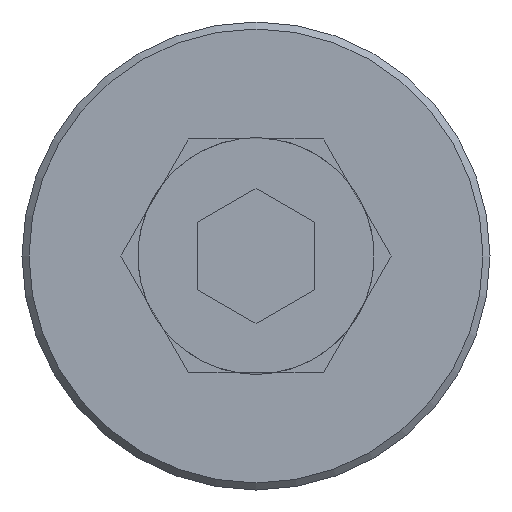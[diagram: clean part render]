
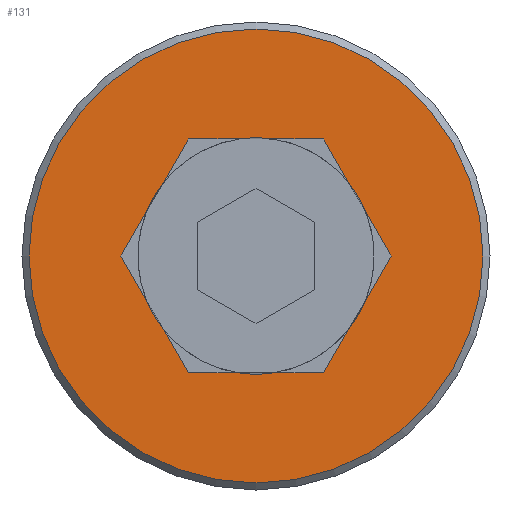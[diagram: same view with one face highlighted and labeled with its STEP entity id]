
A CAD part, left-side view. The second image highlights one B-rep face of the part: STEP entity #131.
In plain terms, the highlighted planar face has unit normal (-1, 0, 0).
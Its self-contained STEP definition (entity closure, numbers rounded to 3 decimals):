
#131 = ADVANCED_FACE( '', ( #276, #277 ), #278, .F. );
#276 = FACE_OUTER_BOUND( '', #423, .T. );
#277 = FACE_BOUND( '', #424, .T. );
#278 = PLANE( '', #425 );
#423 = EDGE_LOOP( '', ( #717 ) );
#424 = EDGE_LOOP( '', ( #718, #719, #720, #721, #722, #723, #724, #725, #726, #727, #728, #729, #730, #731, #732, #733, #734, #735 ) );
#425 = AXIS2_PLACEMENT_3D( '', #736, #737, #738 );
#717 = ORIENTED_EDGE( '', *, *, #908, .F. );
#718 = ORIENTED_EDGE( '', *, *, #891, .T. );
#719 = ORIENTED_EDGE( '', *, *, #885, .T. );
#720 = ORIENTED_EDGE( '', *, *, #871, .T. );
#721 = ORIENTED_EDGE( '', *, *, #898, .T. );
#722 = ORIENTED_EDGE( '', *, *, #906, .T. );
#723 = ORIENTED_EDGE( '', *, *, #831, .T. );
#724 = ORIENTED_EDGE( '', *, *, #896, .T. );
#725 = ORIENTED_EDGE( '', *, *, #865, .T. );
#726 = ORIENTED_EDGE( '', *, *, #804, .T. );
#727 = ORIENTED_EDGE( '', *, *, #894, .T. );
#728 = ORIENTED_EDGE( '', *, *, #807, .T. );
#729 = ORIENTED_EDGE( '', *, *, #875, .T. );
#730 = ORIENTED_EDGE( '', *, *, #893, .T. );
#731 = ORIENTED_EDGE( '', *, *, #790, .T. );
#732 = ORIENTED_EDGE( '', *, *, #856, .T. );
#733 = ORIENTED_EDGE( '', *, *, #892, .T. );
#734 = ORIENTED_EDGE( '', *, *, #842, .T. );
#735 = ORIENTED_EDGE( '', *, *, #820, .T. );
#736 = CARTESIAN_POINT( '', ( 0., 0., 0. ) );
#737 = DIRECTION( '', ( 1., 0., 0. ) );
#738 = DIRECTION( '', ( 0., 0., -1. ) );
#790 = EDGE_CURVE( '', #919, #920, #921, .T. );
#804 = EDGE_CURVE( '', #946, #944, #947, .T. );
#807 = EDGE_CURVE( '', #950, #951, #952, .T. );
#820 = EDGE_CURVE( '', #974, #972, #975, .T. );
#831 = EDGE_CURVE( '', #992, #990, #993, .T. );
#842 = EDGE_CURVE( '', #1008, #974, #1009, .T. );
#856 = EDGE_CURVE( '', #920, #1027, #1029, .T. );
#865 = EDGE_CURVE( '', #1040, #946, #1041, .T. );
#871 = EDGE_CURVE( '', #1051, #1049, #1052, .T. );
#875 = EDGE_CURVE( '', #951, #1055, #1057, .T. );
#885 = EDGE_CURVE( '', #1068, #1051, #1069, .T. );
#891 = EDGE_CURVE( '', #972, #1068, #1075, .T. );
#892 = EDGE_CURVE( '', #1027, #1008, #1076, .T. );
#893 = EDGE_CURVE( '', #1055, #919, #1077, .T. );
#894 = EDGE_CURVE( '', #944, #950, #1078, .T. );
#896 = EDGE_CURVE( '', #990, #1040, #1080, .T. );
#898 = EDGE_CURVE( '', #1049, #1081, #1083, .T. );
#906 = EDGE_CURVE( '', #1081, #992, #1093, .T. );
#908 = EDGE_CURVE( '', #1095, #1095, #1096, .T. );
#919 = VERTEX_POINT( '', #1108 );
#920 = VERTEX_POINT( '', #1109 );
#921 = LINE( '', #1110, #1111 );
#944 = VERTEX_POINT( '', #1144 );
#946 = VERTEX_POINT( '', #1147 );
#947 = LINE( '', #1148, #1149 );
#950 = VERTEX_POINT( '', #1153 );
#951 = VERTEX_POINT( '', #1154 );
#952 = LINE( '', #1155, #1156 );
#972 = VERTEX_POINT( '', #1180 );
#974 = VERTEX_POINT( '', #1183 );
#975 = LINE( '', #1184, #1185 );
#990 = VERTEX_POINT( '', #1203 );
#992 = VERTEX_POINT( '', #1206 );
#993 = LINE( '', #1207, #1208 );
#1008 = VERTEX_POINT( '', #1227 );
#1009 = LINE( '', #1228, #1229 );
#1027 = VERTEX_POINT( '', #1253 );
#1029 = LINE( '', #1256, #1257 );
#1040 = VERTEX_POINT( '', #1270 );
#1041 = LINE( '', #1271, #1272 );
#1049 = VERTEX_POINT( '', #1283 );
#1051 = VERTEX_POINT( '', #1286 );
#1052 = LINE( '', #1287, #1288 );
#1055 = VERTEX_POINT( '', #1292 );
#1057 = LINE( '', #1295, #1296 );
#1068 = VERTEX_POINT( '', #1309 );
#1069 = LINE( '', #1310, #1311 );
#1075 = CIRCLE( '', #1319, 5.05 );
#1076 = CIRCLE( '', #1320, 5.05 );
#1077 = CIRCLE( '', #1321, 5.05 );
#1078 = CIRCLE( '', #1322, 5.05 );
#1080 = CIRCLE( '', #1324, 5.05 );
#1081 = VERTEX_POINT( '', #1325 );
#1083 = CIRCLE( '', #1328, 5.05 );
#1093 = LINE( '', #1340, #1341 );
#1095 = VERTEX_POINT( '', #1343 );
#1096 = CIRCLE( '', #1344, 9.7 );
#1108 = CARTESIAN_POINT( '', ( 0., -0.709, 5. ) );
#1109 = CARTESIAN_POINT( '', ( 0., -2.887, 5. ) );
#1110 = CARTESIAN_POINT( '', ( 0., 2.887, 5. ) );
#1111 = VECTOR( '', #1356, 1000. );
#1144 = CARTESIAN_POINT( '', ( 0., 4.685, 1.886 ) );
#1147 = CARTESIAN_POINT( '', ( 0., 5.774, 0. ) );
#1148 = CARTESIAN_POINT( '', ( 0., 5.774, 0. ) );
#1149 = VECTOR( '', #1368, 1000. );
#1153 = CARTESIAN_POINT( '', ( 0., 3.976, 3.114 ) );
#1154 = CARTESIAN_POINT( '', ( 0., 2.887, 5. ) );
#1155 = CARTESIAN_POINT( '', ( 0., 5.774, 0. ) );
#1156 = VECTOR( '', #1370, 1000. );
#1180 = CARTESIAN_POINT( '', ( 0., -4.685, -1.886 ) );
#1183 = CARTESIAN_POINT( '', ( 0., -5.774, 0. ) );
#1184 = CARTESIAN_POINT( '', ( 0., -5.774, 0. ) );
#1185 = VECTOR( '', #1388, 1000. );
#1203 = CARTESIAN_POINT( '', ( 0., 3.976, -3.114 ) );
#1206 = CARTESIAN_POINT( '', ( 0., 2.887, -5. ) );
#1207 = CARTESIAN_POINT( '', ( 0., 2.887, -5. ) );
#1208 = VECTOR( '', #1402, 1000. );
#1227 = CARTESIAN_POINT( '', ( 0., -4.685, 1.886 ) );
#1228 = CARTESIAN_POINT( '', ( 0., -2.887, 5. ) );
#1229 = VECTOR( '', #1413, 1000. );
#1253 = CARTESIAN_POINT( '', ( 0., -3.976, 3.114 ) );
#1256 = CARTESIAN_POINT( '', ( 0., -2.887, 5. ) );
#1257 = VECTOR( '', #1427, 1000. );
#1270 = CARTESIAN_POINT( '', ( 0., 4.685, -1.886 ) );
#1271 = CARTESIAN_POINT( '', ( 0., 2.887, -5. ) );
#1272 = VECTOR( '', #1436, 1000. );
#1283 = CARTESIAN_POINT( '', ( 0., -0.709, -5. ) );
#1286 = CARTESIAN_POINT( '', ( 0., -2.887, -5. ) );
#1287 = CARTESIAN_POINT( '', ( 0., -2.887, -5. ) );
#1288 = VECTOR( '', #1441, 1000. );
#1292 = CARTESIAN_POINT( '', ( 0., 0.709, 5. ) );
#1295 = CARTESIAN_POINT( '', ( 0., 2.887, 5. ) );
#1296 = VECTOR( '', #1444, 1000. );
#1309 = CARTESIAN_POINT( '', ( 0., -3.976, -3.114 ) );
#1310 = CARTESIAN_POINT( '', ( 0., -5.774, 0. ) );
#1311 = VECTOR( '', #1453, 1000. );
#1319 = AXIS2_PLACEMENT_3D( '', #1456, #1457, #1458 );
#1320 = AXIS2_PLACEMENT_3D( '', #1459, #1460, #1461 );
#1321 = AXIS2_PLACEMENT_3D( '', #1462, #1463, #1464 );
#1322 = AXIS2_PLACEMENT_3D( '', #1465, #1466, #1467 );
#1324 = AXIS2_PLACEMENT_3D( '', #1471, #1472, #1473 );
#1325 = CARTESIAN_POINT( '', ( 0., 0.709, -5. ) );
#1328 = AXIS2_PLACEMENT_3D( '', #1475, #1476, #1477 );
#1340 = CARTESIAN_POINT( '', ( 0., -2.887, -5. ) );
#1341 = VECTOR( '', #1486, 1000. );
#1343 = CARTESIAN_POINT( '', ( 0., 0., -9.7 ) );
#1344 = AXIS2_PLACEMENT_3D( '', #1487, #1488, #1489 );
#1356 = DIRECTION( '', ( 0., -1., 0. ) );
#1368 = DIRECTION( '', ( 0., -0.5, 0.866 ) );
#1370 = DIRECTION( '', ( 0., -0.5, 0.866 ) );
#1388 = DIRECTION( '', ( 0., 0.5, -0.866 ) );
#1402 = DIRECTION( '', ( 0., 0.5, 0.866 ) );
#1413 = DIRECTION( '', ( 0., -0.5, -0.866 ) );
#1427 = DIRECTION( '', ( 0., -0.5, -0.866 ) );
#1436 = DIRECTION( '', ( 0., 0.5, 0.866 ) );
#1441 = DIRECTION( '', ( 0., 1., 0. ) );
#1444 = DIRECTION( '', ( 0., -1., 0. ) );
#1453 = DIRECTION( '', ( 0., 0.5, -0.866 ) );
#1456 = CARTESIAN_POINT( '', ( 0., 0., 0. ) );
#1457 = DIRECTION( '', ( 1., 0., 0. ) );
#1458 = DIRECTION( '', ( 0., 0., -1. ) );
#1459 = CARTESIAN_POINT( '', ( 0., 0., 0. ) );
#1460 = DIRECTION( '', ( 1., 0., 0. ) );
#1461 = DIRECTION( '', ( 0., 0., -1. ) );
#1462 = CARTESIAN_POINT( '', ( 0., 0., 0. ) );
#1463 = DIRECTION( '', ( 1., 0., 0. ) );
#1464 = DIRECTION( '', ( 0., 0., -1. ) );
#1465 = CARTESIAN_POINT( '', ( 0., 0., 0. ) );
#1466 = DIRECTION( '', ( 1., 0., 0. ) );
#1467 = DIRECTION( '', ( 0., 0., -1. ) );
#1471 = CARTESIAN_POINT( '', ( 0., 0., 0. ) );
#1472 = DIRECTION( '', ( 1., 0., 0. ) );
#1473 = DIRECTION( '', ( 0., 0., -1. ) );
#1475 = CARTESIAN_POINT( '', ( 0., 0., 0. ) );
#1476 = DIRECTION( '', ( 1., 0., 0. ) );
#1477 = DIRECTION( '', ( 0., 0., -1. ) );
#1486 = DIRECTION( '', ( 0., 1., 0. ) );
#1487 = CARTESIAN_POINT( '', ( 0., 0., 0. ) );
#1488 = DIRECTION( '', ( 1., 0., 0. ) );
#1489 = DIRECTION( '', ( 0., 0., -1. ) );
